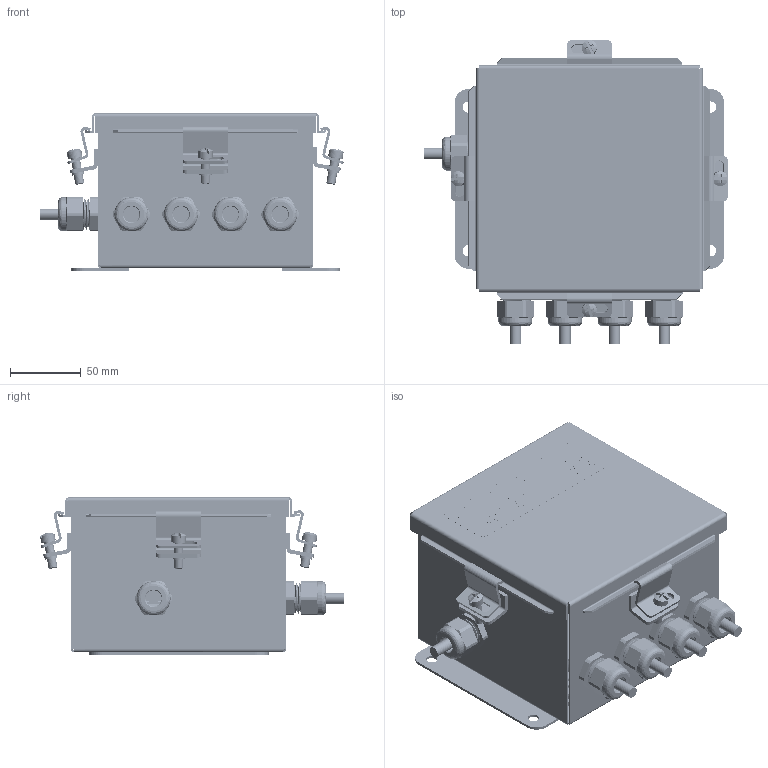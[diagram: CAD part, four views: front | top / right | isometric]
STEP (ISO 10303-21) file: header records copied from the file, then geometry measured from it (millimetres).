
FILE_DESCRIPTION (( 'STEP AP203' ), '1' );
FILE_NAME ('HI6020IT-PS2.STEP', '2021-06-10T20:04:05', ( '' ), ( '' ), 'SwSTEP 2.0', 'SolidWorks 2020', '' );
FILE_SCHEMA (( 'CONFIG_CONTROL_DESIGN' ));
Length unit declared in the file: inch
Products named in the file (24): 2140-0137-07-0; 0535-0573-XX-0; 4617-0010-0; HFW3883.stp; 2140-0137-09-0; BN4060604SSBKP.stp; BN4060604SS.stp; 6007-0097-0; 0529-0024-01-0; 0508-0837; 2817-0182_90400A219; C2001.stp; 0530-0798-01-0; 34853.stp; 2814-0095-0; 0530-0800-01-0; 34973.stp; 0534-0573-01-0; 2140-0136-09-0; C2002.stp; BN40606SSLID.stp; 372135.stp; HI6020IT-PS2; 2140-0136-07-0
Assembly tree (62 placements, depth 4):
  HI6020IT-PS2
    0535-0573-XX-0
      0534-0573-01-0
      4617-0010-0  x4
      2140-0136-07-0  x4
      2140-0137-07-0  x4
      2140-0136-09-0  x2
      2140-0137-09-0  x2
    0508-0837
      BN4060604SS.stp
        34973.stp  x4
        C2002.stp  x4
        372135.stp  x4
        C2001.stp  x4
        BN40606SSLID.stp
        HFW3883.stp
        BN4060604SSBKP.stp
        34853.stp  x2
    2817-0182_90400A219  x4
    6007-0097-0  x5
    2814-0095-0  x5
    0529-0024-01-0  x5
    0530-0798-01-0
    0530-0800-01-0
Bounding box: 214.68 x 214.89 x 111.59 mm (x, y, z)
Volume: 370393.3 mm3; surface area: 445039.5 mm2
Topology: 542 solids, 546 shells, 15449 faces, 39690 edges, 25963 vertices
Faces by surface type: plane 9580, cylinder 2785, bspline 2525, cone 331, torus 148, sphere 80
Entity records: 375909 total; most frequent: CARTESIAN_POINT 153019, ORIENTED_EDGE 49510, DIRECTION 36328, EDGE_CURVE 24755, LINE 17178, VECTOR 17178, VERTEX_POINT 16333, EDGE_LOOP 10354
